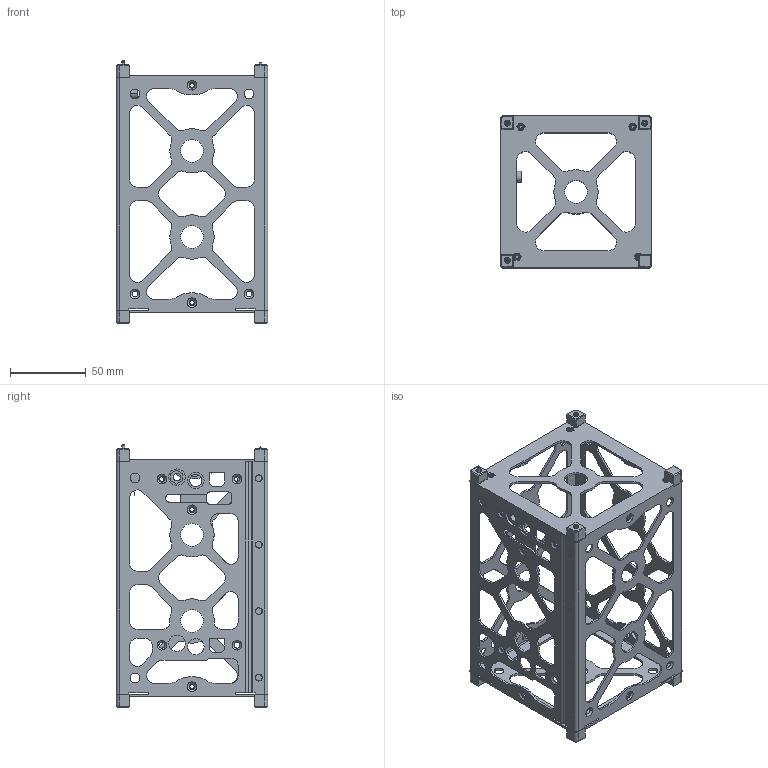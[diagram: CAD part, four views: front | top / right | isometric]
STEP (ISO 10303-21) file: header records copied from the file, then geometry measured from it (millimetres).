
FILE_DESCRIPTION (( 'STEP AP214' ), '1' );
FILE_NAME ('CSK_1.5U_Chassis_Skeleton_RevD.STEP', '2008-10-08T07:14:39', ( ' ' ), ( ' ' ), 'SwSTEP 2.0', 'SolidWorks 2005339', '' );
FILE_SCHEMA (( 'AUTOMOTIVE_DESIGN' ));
Length unit declared in the file: inch
Products named in the file (1): CSK_1.5U_Chassis_Skeleton_RevD
Bounding box: 100 x 100 x 172.79 mm (x, y, z)
Volume: 67455.6 mm3; surface area: 104768.9 mm2
Topology: 1 solids, 1 shells, 1820 faces, 4764 edges, 2982 vertices
Faces by surface type: plane 768, cylinder 672, cone 328, torus 36, sphere 16
Entity records: 65290 total; most frequent: DIRECTION 10228, CARTESIAN_POINT 9912, ORIENTED_EDGE 9520, EDGE_CURVE 4760, AXIS2_PLACEMENT_3D 3726, VERTEX_POINT 2982, LINE 2776, VECTOR 2776
